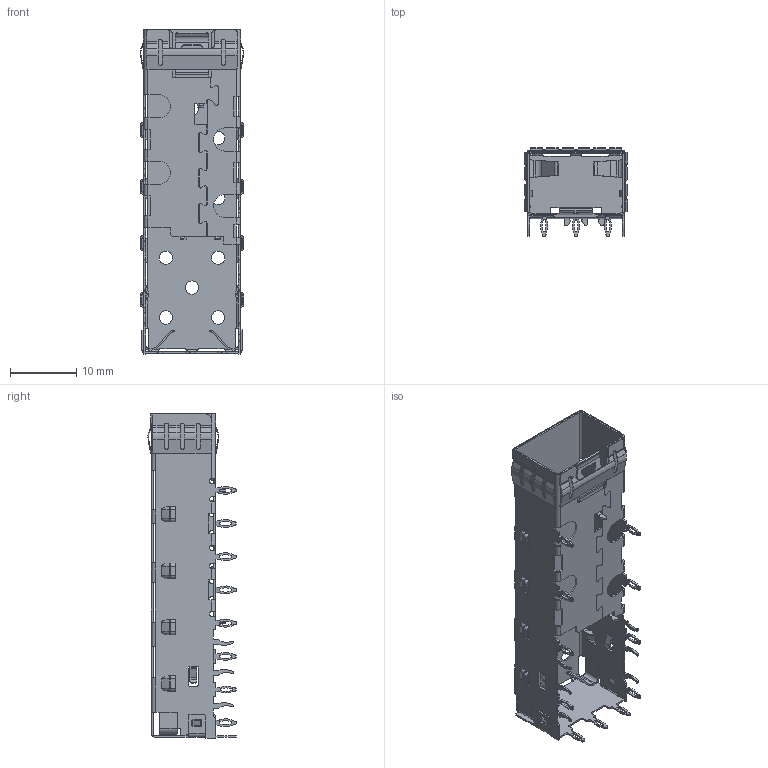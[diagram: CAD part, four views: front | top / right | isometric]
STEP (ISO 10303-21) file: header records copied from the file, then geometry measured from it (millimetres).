
FILE_DESCRIPTION((''),'2;1');
FILE_NAME('47111-06N011_ASM','2015-09-28T',('GLG'),(''),'PRO/ENGINEER BY PARAMETRIC TECHNOLOGY CORPORATION, 2012130','PRO/ENGINEER BY PARAMETRIC TECHNOLOGY CORPORATION, 2012130','');
FILE_SCHEMA(('CONFIG_CONTROL_DESIGN'));
Length unit declared in the file: millimetre
Products named in the file (1): 47111-06N011_ASM
Bounding box: 15.6 x 13.3 x 48.8 mm (x, y, z)
Surface area: 4748.9 mm2
Topology: 2 solids, 7 shells, 1646 faces, 4412 edges, 2660 vertices
Faces by surface type: plane 915, cylinder 664, sphere 32, bspline 22, extrusion 13
Entity records: 51835 total; most frequent: CARTESIAN_POINT 10242, DIRECTION 8795, ORIENTED_EDGE 8640, EDGE_CURVE 4412, VECTOR 2939, AXIS2_PLACEMENT_3D 2928, LINE 2926, VERTEX_POINT 2660
